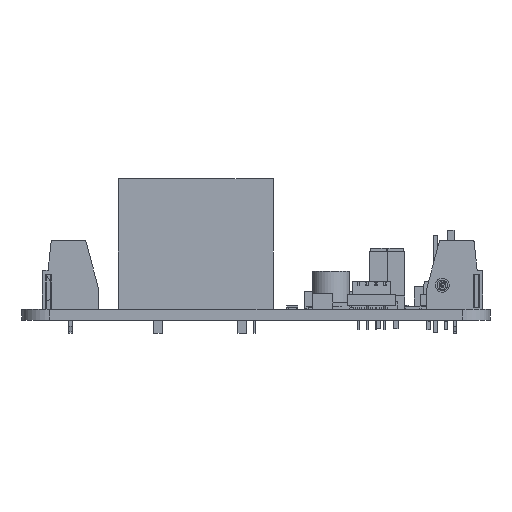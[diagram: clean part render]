
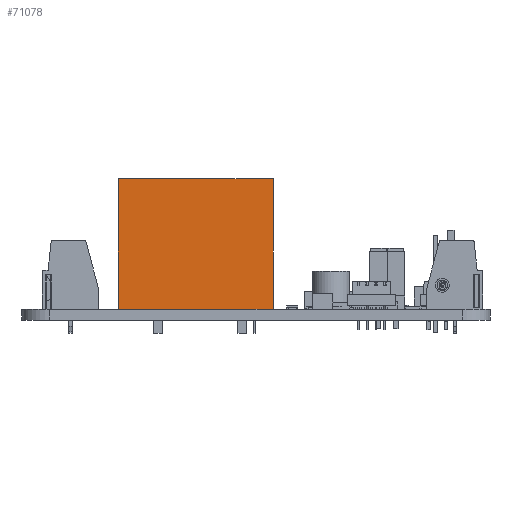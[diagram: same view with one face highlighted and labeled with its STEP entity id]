
A CAD part, left-side view. The second image highlights one B-rep face of the part: STEP entity #71078.
In plain terms, the highlighted planar face has unit normal (-1, 0, 0).
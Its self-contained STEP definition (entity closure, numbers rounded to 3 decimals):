
#71053 = VERTEX_POINT('',#71054);
#71054 = CARTESIAN_POINT('',(-8.25,-11.25,19.));
#71060 = EDGE_CURVE('',#71061,#71053,#71063,.T.);
#71061 = VERTEX_POINT('',#71062);
#71062 = CARTESIAN_POINT('',(-8.25,-11.25,0.));
#71063 = LINE('',#71064,#71065);
#71064 = CARTESIAN_POINT('',(-8.25,-11.25,0.));
#71065 = VECTOR('',#71066,1.);
#71066 = DIRECTION('',(0.,0.,1.));
#71078 = ADVANCED_FACE('',(#71079),#71104,.T.);
#71079 = FACE_BOUND('',#71080,.T.);
#71080 = EDGE_LOOP('',(#71081,#71082,#71090,#71098));
#71081 = ORIENTED_EDGE('',*,*,#71060,.T.);
#71082 = ORIENTED_EDGE('',*,*,#71083,.T.);
#71083 = EDGE_CURVE('',#71053,#71084,#71086,.T.);
#71084 = VERTEX_POINT('',#71085);
#71085 = CARTESIAN_POINT('',(-8.25,11.25,19.));
#71086 = LINE('',#71087,#71088);
#71087 = CARTESIAN_POINT('',(-8.25,-11.25,19.));
#71088 = VECTOR('',#71089,1.);
#71089 = DIRECTION('',(0.,1.,0.));
#71090 = ORIENTED_EDGE('',*,*,#71091,.F.);
#71091 = EDGE_CURVE('',#71092,#71084,#71094,.T.);
#71092 = VERTEX_POINT('',#71093);
#71093 = CARTESIAN_POINT('',(-8.25,11.25,0.));
#71094 = LINE('',#71095,#71096);
#71095 = CARTESIAN_POINT('',(-8.25,11.25,0.));
#71096 = VECTOR('',#71097,1.);
#71097 = DIRECTION('',(0.,0.,1.));
#71098 = ORIENTED_EDGE('',*,*,#71099,.F.);
#71099 = EDGE_CURVE('',#71061,#71092,#71100,.T.);
#71100 = LINE('',#71101,#71102);
#71101 = CARTESIAN_POINT('',(-8.25,-11.25,0.));
#71102 = VECTOR('',#71103,1.);
#71103 = DIRECTION('',(0.,1.,0.));
#71104 = PLANE('',#71105);
#71105 = AXIS2_PLACEMENT_3D('',#71106,#71107,#71108);
#71106 = CARTESIAN_POINT('',(-8.25,-11.25,0.));
#71107 = DIRECTION('',(-1.,0.,0.));
#71108 = DIRECTION('',(0.,1.,0.));
